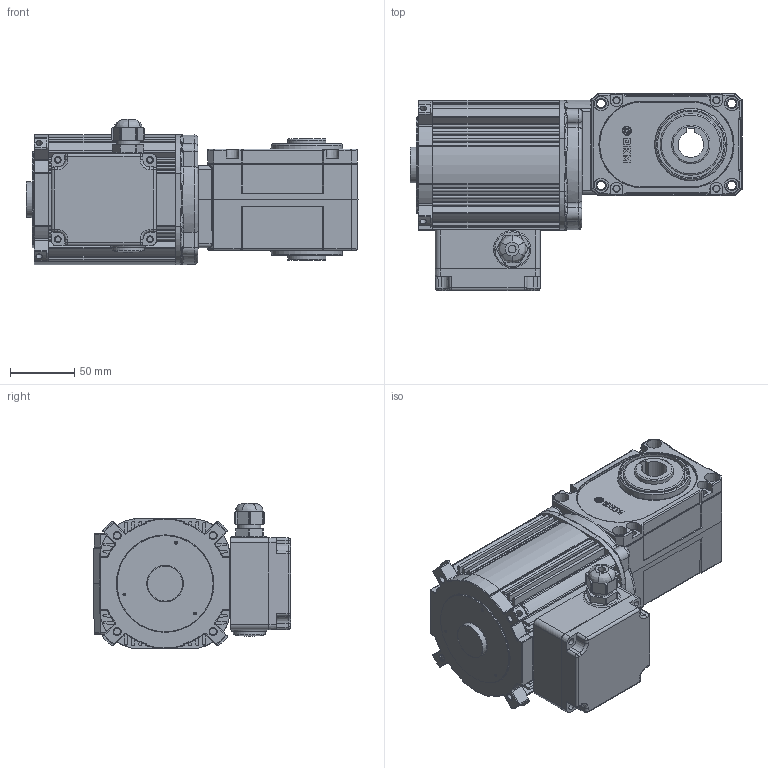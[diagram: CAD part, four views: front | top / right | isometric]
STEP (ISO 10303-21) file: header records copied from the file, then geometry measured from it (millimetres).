
FILE_DESCRIPTION (( 'STEP AP203' ), '1' );
FILE_NAME ('DSY20B-(7.5~30)N010-¤±.STEP', '2022-08-08T06:36:09', ( '' ), ( '' ), 'SwSTEP 2.0', 'SolidWorks 2018', '' );
FILE_SCHEMA (( 'CONFIG_CONTROL_DESIGN' ));
Length unit declared in the file: millimetre
Products named in the file (14): DSY02S 馬樓晦; 欽濠夢蝶 ASS''Y; CASE-DSY02S-DC 寇屈荐沥; COVER-DSY02S-DC 寇屈荐沥; 堅鼠ぬ韁-鼻; DKM 窜磊措 惑何荐沥档(20200120); 欽濠夢蝶 ж 熱薑; DSY20B-(7.5~30)N010-仃; 堅鼠ぬ韁-ж; 欽濠夢蝶 葆偃; 0.1KW 賅攪; Щ滓衛綰_ル遽; 95 牢惯橇饭烙 弥辆啊傍档(20200128); DKM 0.2kW 菴醴幗 陛奢紫(20200128)
Assembly tree (13 placements, depth 3):
  DSY20B-(7.5~30)N010-仃
    DSY02S 馬樓晦
      CASE-DSY02S-DC 寇屈荐沥
      COVER-DSY02S-DC 寇屈荐沥
    0.1KW 賅攪
      95 牢惯橇饭烙 弥辆啊傍档(20200128)
      DKM 0.2kW 菴醴幗 陛奢紫(20200128)
    欽濠夢蝶 ASS''Y
      欽濠夢蝶 ж 熱薑
      Щ滓衛綰_ル遽
      欽濠夢蝶 葆偃
      堅鼠ぬ韁-鼻
      堅鼠ぬ韁-ж
      DKM 窜磊措 惑何荐沥档(20200120)
Bounding box: 259.3 x 154.05 x 113.41 mm (x, y, z)
Volume: 2064436.7 mm3; surface area: 276530.6 mm2
Topology: 10 solids, 16 shells, 1316 faces, 3327 edges, 2079 vertices
Faces by surface type: plane 543, cylinder 476, bspline 164, torus 81, cone 32, sphere 20
Full cylindrical faces by diameter (mm): 2.514 x2, 3.318 x2, 3.5 x4, 4.2 x8, 4.5 x4, 5 x12, 5.3 x12, 6 x1, 6.7 x4, 8 x8, 10.8 x1, 11 x4, 16.5 x1, 18 x2, 19 x1, 20 x2, 22 x1, 25 x1, 28 x1, 30 x3, 46.111 x1, 48 x2, 52 x2
Entity records: 44854 total; most frequent: CARTESIAN_POINT 12904, ORIENTED_EDGE 6292, DIRECTION 6235, EDGE_CURVE 3146, AXIS2_PLACEMENT_3D 2270, VERTEX_POINT 2054, LINE 1695, VECTOR 1695
